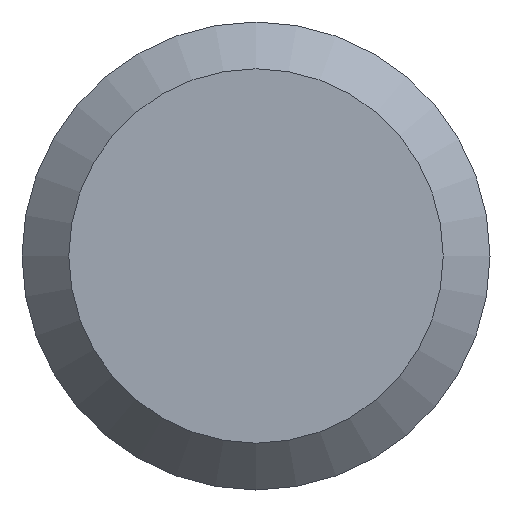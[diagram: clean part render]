
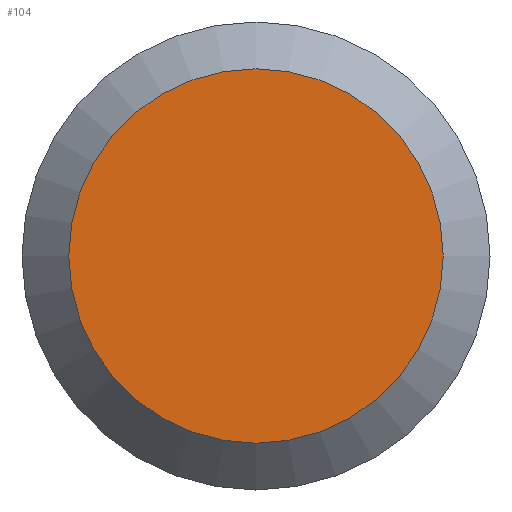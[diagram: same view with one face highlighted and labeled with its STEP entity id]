
A CAD part, left-side view. The second image highlights one B-rep face of the part: STEP entity #104.
In plain terms, the highlighted planar face has unit normal (-1, 0, 0).
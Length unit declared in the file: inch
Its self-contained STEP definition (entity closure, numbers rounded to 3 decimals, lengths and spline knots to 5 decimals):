
#4 = FACE_OUTER_BOUND ( 'NONE', #49, .T. ) ;
#30 = ORIENTED_EDGE ( 'NONE', *, *, #59, .T. ) ;
#49 = EDGE_LOOP ( 'NONE', ( #30 ) ) ;
#51 = AXIS2_PLACEMENT_3D ( 'NONE', #97, #205, #216 ) ;
#59 = EDGE_CURVE ( 'NONE', #141, #141, #240, .T. ) ;
#81 = DIRECTION ( 'NONE',  ( 0., 0., -1. ) ) ;
#94 = CARTESIAN_POINT ( 'NONE',  ( 0., 0., -0.18125 ) ) ;
#97 = CARTESIAN_POINT ( 'NONE',  ( 0., 0.22656, 0. ) ) ;
#104 = ADVANCED_FACE ( 'NONE', ( #4 ), #224, .F. ) ;
#141 = VERTEX_POINT ( 'NONE', #94 ) ;
#159 = DIRECTION ( 'NONE',  ( -1., 0., 0. ) ) ;
#181 = CARTESIAN_POINT ( 'NONE',  ( 0., 0., 0. ) ) ;
#202 = AXIS2_PLACEMENT_3D ( 'NONE', #181, #159, #81 ) ;
#205 = DIRECTION ( 'NONE',  ( 1., 0., 0. ) ) ;
#216 = DIRECTION ( 'NONE',  ( 0., 0., -1. ) ) ;
#224 = PLANE ( 'NONE',  #51 ) ;
#240 = CIRCLE ( 'NONE', #202, 0.18125 ) ;
